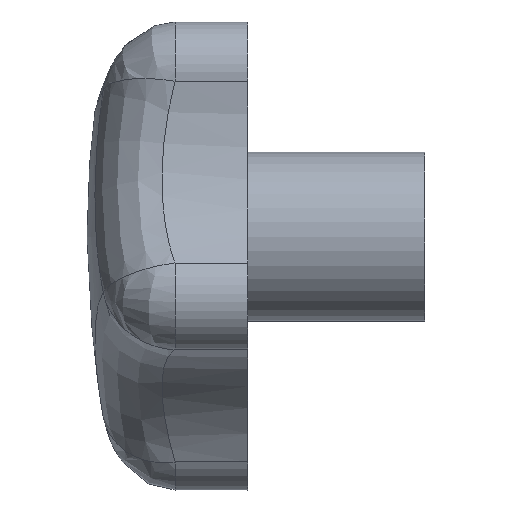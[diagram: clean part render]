
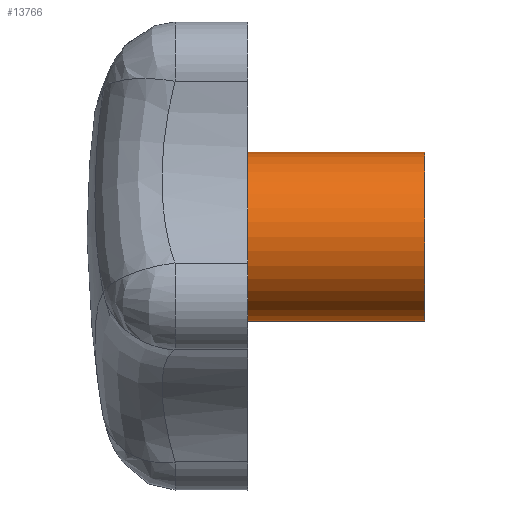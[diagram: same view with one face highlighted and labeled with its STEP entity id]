
A CAD part, left-side view. The second image highlights one B-rep face of the part: STEP entity #13766.
In plain terms, the highlighted cylindrical face has radius 10 mm (diameter 20 mm), a partial arc.
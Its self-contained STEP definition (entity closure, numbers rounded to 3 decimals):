
#4959 = CARTESIAN_POINT ( 'NONE',  ( -10., 16.075, 0. ) ) ;
#5459 = DIRECTION ( 'NONE',  ( 0., 0., -1. ) ) ;
#5460 = DIRECTION ( 'NONE',  ( 0., -1., 0. ) ) ;
#5461 = CARTESIAN_POINT ( 'NONE',  ( 0., 16.075, 0. ) ) ;
#5462 = AXIS2_PLACEMENT_3D ( 'NONE', #5461, #5460, #5459 ) ;
#5463 = CIRCLE ( 'NONE', #5462, 10. ) ;
#5533 = DIRECTION ( 'NONE',  ( 0., 0., -1. ) ) ;
#5534 = DIRECTION ( 'NONE',  ( 0., -1., 0. ) ) ;
#5535 = CARTESIAN_POINT ( 'NONE',  ( 0., 16.075, 0. ) ) ;
#5536 = AXIS2_PLACEMENT_3D ( 'NONE', #5535, #5534, #5533 ) ;
#5537 = CIRCLE ( 'NONE', #5536, 10. ) ;
#5687 = CARTESIAN_POINT ( 'NONE',  ( 0., 16.075, -10. ) ) ;
#5688 = DIRECTION ( 'NONE',  ( 0., -1., 0. ) ) ;
#5689 = VECTOR ( 'NONE', #5688, 1000. ) ;
#5690 = CARTESIAN_POINT ( 'NONE',  ( 0., 500000., -10. ) ) ;
#5691 = LINE ( 'NONE', #5690, #5689 ) ;
#5692 = CARTESIAN_POINT ( 'NONE',  ( 0., -21., -10. ) ) ;
#5698 = CARTESIAN_POINT ( 'NONE',  ( 0., -21., 10. ) ) ;
#5699 = DIRECTION ( 'NONE',  ( 0., -1., 0. ) ) ;
#5700 = VECTOR ( 'NONE', #5699, 1000. ) ;
#5701 = CARTESIAN_POINT ( 'NONE',  ( 0., 500000., 10. ) ) ;
#5702 = LINE ( 'NONE', #5701, #5700 ) ;
#5703 = CARTESIAN_POINT ( 'NONE',  ( 0., 16.075, 10. ) ) ;
#11300 = EDGE_CURVE ( 'NONE', #11349, #11405, #5463, .T. ) ;
#11343 = EDGE_CURVE ( 'NONE', #11427, #11349, #5537, .T. ) ;
#11349 = VERTEX_POINT ( 'NONE', #4959 ) ;
#11404 = EDGE_CURVE ( 'NONE', #11405, #11433, #5691, .T. ) ;
#11405 = VERTEX_POINT ( 'NONE', #5687 ) ;
#11427 = VERTEX_POINT ( 'NONE', #5703 ) ;
#11429 = EDGE_CURVE ( 'NONE', #11427, #11430, #5702, .T. ) ;
#11430 = VERTEX_POINT ( 'NONE', #5698 ) ;
#11433 = VERTEX_POINT ( 'NONE', #5692 ) ;
#12579 = CYLINDRICAL_SURFACE ( 'NONE', #12617, 10. ) ;
#12600 = DIRECTION ( 'NONE',  ( 0., 0., -1. ) ) ;
#12601 = DIRECTION ( 'NONE',  ( 0., -1., 0. ) ) ;
#12602 = CARTESIAN_POINT ( 'NONE',  ( 0., 500000., 0. ) ) ;
#12617 = AXIS2_PLACEMENT_3D ( 'NONE', #12602, #12601, #12600 ) ;
#12659 = FACE_OUTER_BOUND ( 'NONE', #13765, .T. ) ;
#13101 = DIRECTION ( 'NONE',  ( 0., 0., 1. ) ) ;
#13102 = DIRECTION ( 'NONE',  ( 0., 1., 0. ) ) ;
#13103 = CARTESIAN_POINT ( 'NONE',  ( 0., -21., 0. ) ) ;
#13104 = AXIS2_PLACEMENT_3D ( 'NONE', #13103, #13102, #13101 ) ;
#13105 = CIRCLE ( 'NONE', #13104, 10. ) ;
#13765 = EDGE_LOOP ( 'NONE', ( #13772, #13767, #13769, #13775, #13770 ) ) ;
#13766 = ADVANCED_FACE ( 'NONE', ( #12659 ), #12579, .T. ) ;
#13767 = ORIENTED_EDGE ( 'NONE', *, *, #11343, .T. ) ;
#13769 = ORIENTED_EDGE ( 'NONE', *, *, #11300, .T. ) ;
#13770 = ORIENTED_EDGE ( 'NONE', *, *, #13776, .T. ) ;
#13772 = ORIENTED_EDGE ( 'NONE', *, *, #11429, .F. ) ;
#13775 = ORIENTED_EDGE ( 'NONE', *, *, #11404, .T. ) ;
#13776 = EDGE_CURVE ( 'NONE', #11433, #11430, #13105, .T. ) ;
